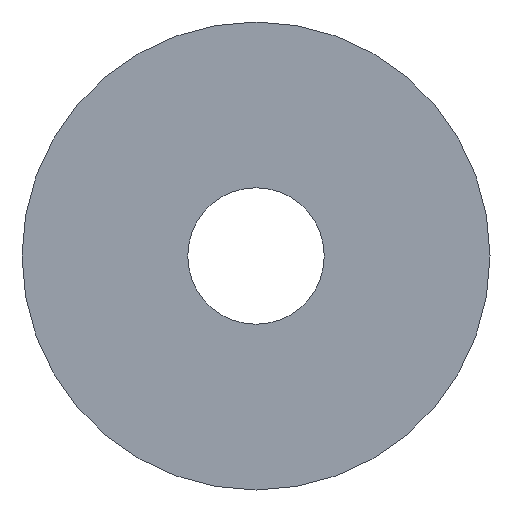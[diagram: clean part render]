
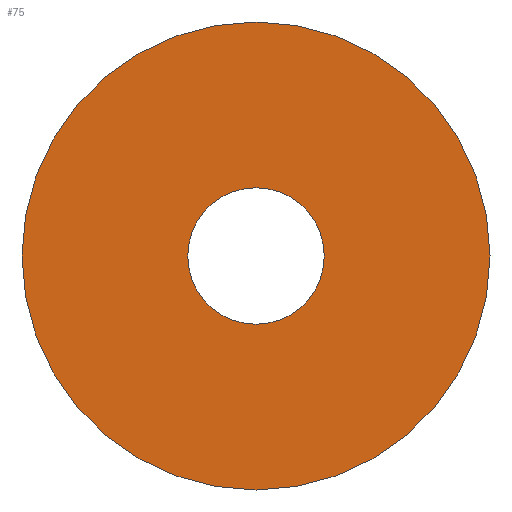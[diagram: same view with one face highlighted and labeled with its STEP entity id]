
A CAD part, left-side view. The second image highlights one B-rep face of the part: STEP entity #75.
In plain terms, the highlighted planar face has unit normal (-1, 0, 0).
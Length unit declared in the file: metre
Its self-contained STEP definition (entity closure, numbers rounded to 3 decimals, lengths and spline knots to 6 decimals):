
#13=PLANE('',#98);
#21=ORIENTED_EDGE('',*,*,#28,.T.);
#22=ORIENTED_EDGE('',*,*,#31,.F.);
#28=EDGE_CURVE('',#34,#34,#40,.T.);
#31=EDGE_CURVE('',#37,#37,#43,.T.);
#34=VERTEX_POINT('',#134);
#37=VERTEX_POINT('',#143);
#40=CIRCLE('',#93,0.00175);
#43=CIRCLE('',#99,0.006);
#51=EDGE_LOOP('',(#21));
#52=EDGE_LOOP('',(#22));
#63=FACE_BOUND('',#51,.T.);
#64=FACE_BOUND('',#52,.T.);
#75=ADVANCED_FACE('',(#63,#64),#13,.F.);
#93=AXIS2_PLACEMENT_3D('',#133,#109,#110);
#98=AXIS2_PLACEMENT_3D('',#141,#119,#120);
#99=AXIS2_PLACEMENT_3D('',#142,#121,#122);
#109=DIRECTION('',(1.,0.,0.));
#110=DIRECTION('',(0.,0.,-1.));
#119=DIRECTION('',(1.,0.,0.));
#120=DIRECTION('',(0.,1.,0.));
#121=DIRECTION('',(1.,0.,0.));
#122=DIRECTION('',(0.,0.,-1.));
#133=CARTESIAN_POINT('',(0.,0.,0.));
#134=CARTESIAN_POINT('',(0.,0.,-0.00175));
#141=CARTESIAN_POINT('',(0.,0.,0.));
#142=CARTESIAN_POINT('',(0.,0.,0.));
#143=CARTESIAN_POINT('',(0.,0.,-0.006));
